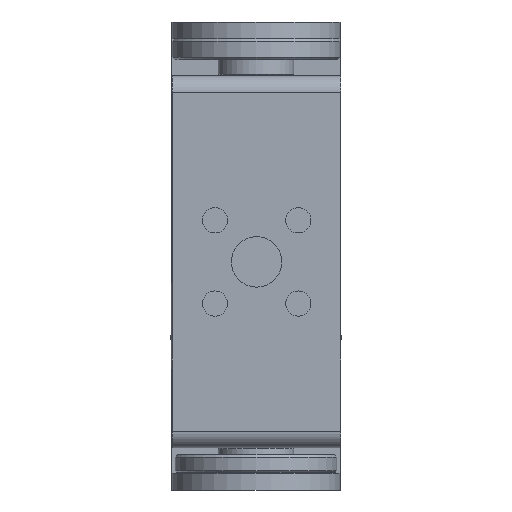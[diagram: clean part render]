
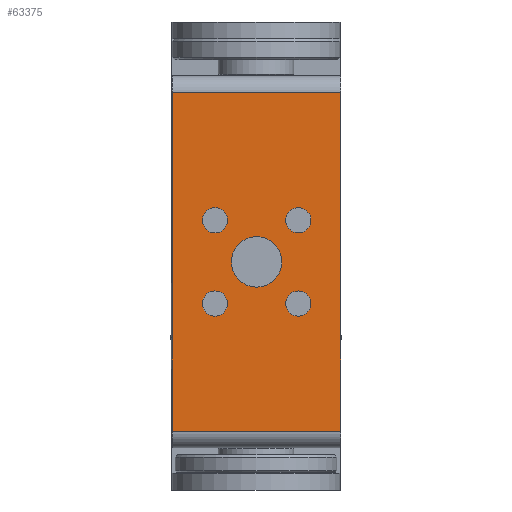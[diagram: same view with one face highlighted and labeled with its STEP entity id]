
A CAD part, front view. The second image highlights one B-rep face of the part: STEP entity #63375.
In plain terms, the highlighted planar face has unit normal (0, -1, 0) as drawn and (0, 1, 0) by its records, which use the part's own axes.
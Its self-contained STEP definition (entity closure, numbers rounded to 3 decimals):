
#62542=DIRECTION('',(-1.,0.,0.));
#62543=VECTOR('',#62542,40.2);
#62544=CARTESIAN_POINT('',(20.1,1.,10.));
#62545=LINE('',#62544,#62543);
#62546=DIRECTION('',(1.,0.,0.));
#62547=VECTOR('',#62546,40.2);
#62548=CARTESIAN_POINT('',(-20.1,1.,-10.));
#62549=LINE('',#62548,#62547);
#62550=CARTESIAN_POINT('',(0.,1.,0.));
#62551=DIRECTION('',(0.,1.,0.));
#62552=DIRECTION('',(1.,0.,0.));
#62553=AXIS2_PLACEMENT_3D('',#62550,#62551,#62552);
#62555=CARTESIAN_POINT('',(0.,1.,0.));
#62556=DIRECTION('',(0.,1.,0.));
#62557=DIRECTION('',(-1.,0.,0.));
#62558=AXIS2_PLACEMENT_3D('',#62555,#62556,#62557);
#62560=CARTESIAN_POINT('',(-4.95,1.,4.95));
#62561=DIRECTION('',(0.,1.,0.));
#62562=DIRECTION('',(1.,0.,0.));
#62563=AXIS2_PLACEMENT_3D('',#62560,#62561,#62562);
#62565=CARTESIAN_POINT('',(-4.95,1.,4.95));
#62566=DIRECTION('',(0.,1.,0.));
#62567=DIRECTION('',(-1.,0.,0.));
#62568=AXIS2_PLACEMENT_3D('',#62565,#62566,#62567);
#62570=CARTESIAN_POINT('',(4.95,1.,4.95));
#62571=DIRECTION('',(0.,1.,0.));
#62572=DIRECTION('',(1.,0.,0.));
#62573=AXIS2_PLACEMENT_3D('',#62570,#62571,#62572);
#62575=CARTESIAN_POINT('',(4.95,1.,4.95));
#62576=DIRECTION('',(0.,1.,0.));
#62577=DIRECTION('',(-1.,0.,0.));
#62578=AXIS2_PLACEMENT_3D('',#62575,#62576,#62577);
#62580=CARTESIAN_POINT('',(-4.95,1.,-4.95));
#62581=DIRECTION('',(0.,1.,0.));
#62582=DIRECTION('',(1.,0.,0.));
#62583=AXIS2_PLACEMENT_3D('',#62580,#62581,#62582);
#62585=CARTESIAN_POINT('',(-4.95,1.,-4.95));
#62586=DIRECTION('',(0.,1.,0.));
#62587=DIRECTION('',(-1.,0.,0.));
#62588=AXIS2_PLACEMENT_3D('',#62585,#62586,#62587);
#62590=CARTESIAN_POINT('',(4.95,1.,-4.95));
#62591=DIRECTION('',(0.,1.,0.));
#62592=DIRECTION('',(1.,0.,0.));
#62593=AXIS2_PLACEMENT_3D('',#62590,#62591,#62592);
#62595=CARTESIAN_POINT('',(4.95,1.,-4.95));
#62596=DIRECTION('',(0.,1.,0.));
#62597=DIRECTION('',(-1.,0.,0.));
#62598=AXIS2_PLACEMENT_3D('',#62595,#62596,#62597);
#62604=DIRECTION('',(0.,0.,-1.));
#62605=VECTOR('',#62604,20.);
#62606=CARTESIAN_POINT('',(20.1,1.,10.));
#62607=LINE('',#62606,#62605);
#62950=DIRECTION('',(0.,0.,1.));
#62951=VECTOR('',#62950,20.);
#62952=CARTESIAN_POINT('',(-20.1,1.,-10.));
#62953=LINE('',#62952,#62951);
#63158=CARTESIAN_POINT('',(20.1,1.,10.));
#63159=CARTESIAN_POINT('',(20.1,1.,-10.));
#63160=VERTEX_POINT('',#63158);
#63161=VERTEX_POINT('',#63159);
#63162=CARTESIAN_POINT('',(-20.1,1.,10.));
#63163=VERTEX_POINT('',#63162);
#63164=CARTESIAN_POINT('',(-20.1,1.,-10.));
#63165=VERTEX_POINT('',#63164);
#63166=CARTESIAN_POINT('',(3.,1.,0.));
#63167=CARTESIAN_POINT('',(-3.,1.,0.));
#63168=VERTEX_POINT('',#63166);
#63169=VERTEX_POINT('',#63167);
#63170=CARTESIAN_POINT('',(-3.45,1.,4.95));
#63171=CARTESIAN_POINT('',(-6.45,1.,4.95));
#63172=VERTEX_POINT('',#63170);
#63173=VERTEX_POINT('',#63171);
#63174=CARTESIAN_POINT('',(6.45,1.,4.95));
#63175=CARTESIAN_POINT('',(3.45,1.,4.95));
#63176=VERTEX_POINT('',#63174);
#63177=VERTEX_POINT('',#63175);
#63178=CARTESIAN_POINT('',(-3.45,1.,-4.95));
#63179=CARTESIAN_POINT('',(-6.45,1.,-4.95));
#63180=VERTEX_POINT('',#63178);
#63181=VERTEX_POINT('',#63179);
#63182=CARTESIAN_POINT('',(6.45,1.,-4.95));
#63183=CARTESIAN_POINT('',(3.45,1.,-4.95));
#63184=VERTEX_POINT('',#63182);
#63185=VERTEX_POINT('',#63183);
#63330=CARTESIAN_POINT('',(0.,1.,0.));
#63331=DIRECTION('',(0.,1.,0.));
#63332=DIRECTION('',(1.,0.,0.));
#63333=AXIS2_PLACEMENT_3D('',#63330,#63331,#63332);
#63334=PLANE('',#63333);
#63336=ORIENTED_EDGE('',*,*,#63335,.F.);
#63338=ORIENTED_EDGE('',*,*,#63337,.T.);
#63340=ORIENTED_EDGE('',*,*,#63339,.F.);
#63342=ORIENTED_EDGE('',*,*,#63341,.T.);
#63343=EDGE_LOOP('',(#63336,#63338,#63340,#63342));
#63344=FACE_OUTER_BOUND('',#63343,.F.);
#63346=ORIENTED_EDGE('',*,*,#63345,.T.);
#63348=ORIENTED_EDGE('',*,*,#63347,.T.);
#63349=EDGE_LOOP('',(#63346,#63348));
#63350=FACE_BOUND('',#63349,.F.);
#63352=ORIENTED_EDGE('',*,*,#63351,.T.);
#63354=ORIENTED_EDGE('',*,*,#63353,.T.);
#63355=EDGE_LOOP('',(#63352,#63354));
#63356=FACE_BOUND('',#63355,.F.);
#63358=ORIENTED_EDGE('',*,*,#63357,.T.);
#63360=ORIENTED_EDGE('',*,*,#63359,.T.);
#63361=EDGE_LOOP('',(#63358,#63360));
#63362=FACE_BOUND('',#63361,.F.);
#63364=ORIENTED_EDGE('',*,*,#63363,.T.);
#63366=ORIENTED_EDGE('',*,*,#63365,.T.);
#63367=EDGE_LOOP('',(#63364,#63366));
#63368=FACE_BOUND('',#63367,.F.);
#63370=ORIENTED_EDGE('',*,*,#63369,.T.);
#63372=ORIENTED_EDGE('',*,*,#63371,.T.);
#63373=EDGE_LOOP('',(#63370,#63372));
#63374=FACE_BOUND('',#63373,.F.);
#62554=CIRCLE('',#62553,3.);
#62559=CIRCLE('',#62558,3.);
#62564=CIRCLE('',#62563,1.5);
#62569=CIRCLE('',#62568,1.5);
#62574=CIRCLE('',#62573,1.5);
#62579=CIRCLE('',#62578,1.5);
#62584=CIRCLE('',#62583,1.5);
#62589=CIRCLE('',#62588,1.5);
#62594=CIRCLE('',#62593,1.5);
#62599=CIRCLE('',#62598,1.5);
#63335=EDGE_CURVE('',#63160,#63161,#62607,.T.);
#63337=EDGE_CURVE('',#63160,#63163,#62545,.T.);
#63339=EDGE_CURVE('',#63165,#63163,#62953,.T.);
#63341=EDGE_CURVE('',#63165,#63161,#62549,.T.);
#63345=EDGE_CURVE('',#63168,#63169,#62554,.T.);
#63347=EDGE_CURVE('',#63169,#63168,#62559,.T.);
#63351=EDGE_CURVE('',#63172,#63173,#62564,.T.);
#63353=EDGE_CURVE('',#63173,#63172,#62569,.T.);
#63357=EDGE_CURVE('',#63176,#63177,#62574,.T.);
#63359=EDGE_CURVE('',#63177,#63176,#62579,.T.);
#63363=EDGE_CURVE('',#63180,#63181,#62584,.T.);
#63365=EDGE_CURVE('',#63181,#63180,#62589,.T.);
#63369=EDGE_CURVE('',#63184,#63185,#62594,.T.);
#63371=EDGE_CURVE('',#63185,#63184,#62599,.T.);
#63375=ADVANCED_FACE('',(#63344,#63350,#63356,#63362,#63368,#63374),#63334,.T.);
